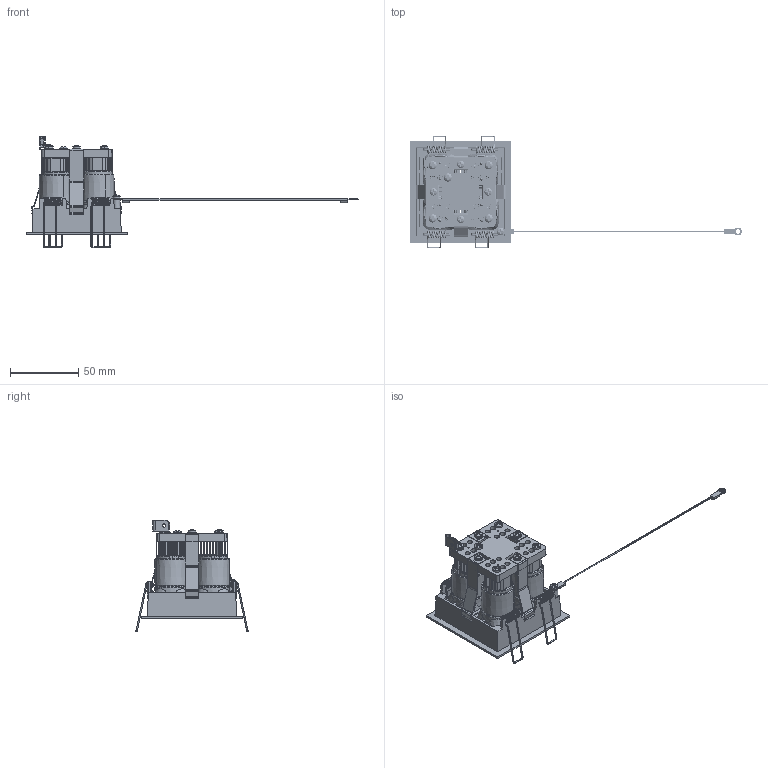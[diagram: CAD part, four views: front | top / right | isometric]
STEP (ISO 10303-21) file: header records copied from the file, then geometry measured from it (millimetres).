
FILE_DESCRIPTION((''),'2;1');
FILE_NAME('MOOD_PRO_4X_SQU_TRIM_ASM','2020-10-22T',('Administrator'),(''),'PRO/ENGINEER BY PARAMETRIC TECHNOLOGY CORPORATION, 2001280','PRO/ENGINEER BY PARAMETRIC TECHNOLOGY CORPORATION, 2001280','');
FILE_SCHEMA(('CONFIG_CONTROL_DESIGN'));
Length unit declared in the file: millimetre
Products named in the file (21): 44297-V3_4; 44528_6; LG10B_ASM_4_ASM; MOOD_4X_42252_5; 42249_1; 41223_3; CD52961; 1_52340-PCB; 1_34839; 42252-41223-52961-52340_ASM; 00593; 1_54803; 1_01723; 1_21117-M320; PARTBODY_1-100368; PARTBODY_2-102027; PARTBODY_3; 1_42808_00_0_ASM; 1-00635; 31574; MOOD_PRO_4X_SQU_TRIM_ASM
Assembly tree (38 placements, depth 3):
  MOOD_PRO_4X_SQU_TRIM_ASM
    LG10B_ASM_4_ASM
      44297-V3_4
      44528_6
    42252-41223-52961-52340_ASM  x4
      MOOD_4X_42252_5
      42249_1
      41223_3
      CD52961
      1_52340-PCB
      1_34839
    00593  x4
    1_54803  x4
    1_01723  x5
    1_21117-M320  x5
    1_42808_00_0_ASM
      PARTBODY_1-100368
      PARTBODY_2-102027
      PARTBODY_3
    1-00635
    31574
Bounding box: 243.25 x 82.26 x 81.85 mm (x, y, z)
Volume: 78097.1 mm3; surface area: 104252 mm2
Topology: 53 solids, 53 shells, 4245 faces, 11522 edges, 7366 vertices
Faces by surface type: plane 2008, cylinder 1117, bspline 525, cone 441, torus 72, sphere 52, revolution 16, extrusion 14
Entity records: 65966 total; most frequent: CARTESIAN_POINT 27248, ORIENTED_EDGE 8400, DIRECTION 7371, EDGE_CURVE 4200, VERTEX_POINT 2710, AXIS2_PLACEMENT_3D 2568, VECTOR 2231, LINE 2226
